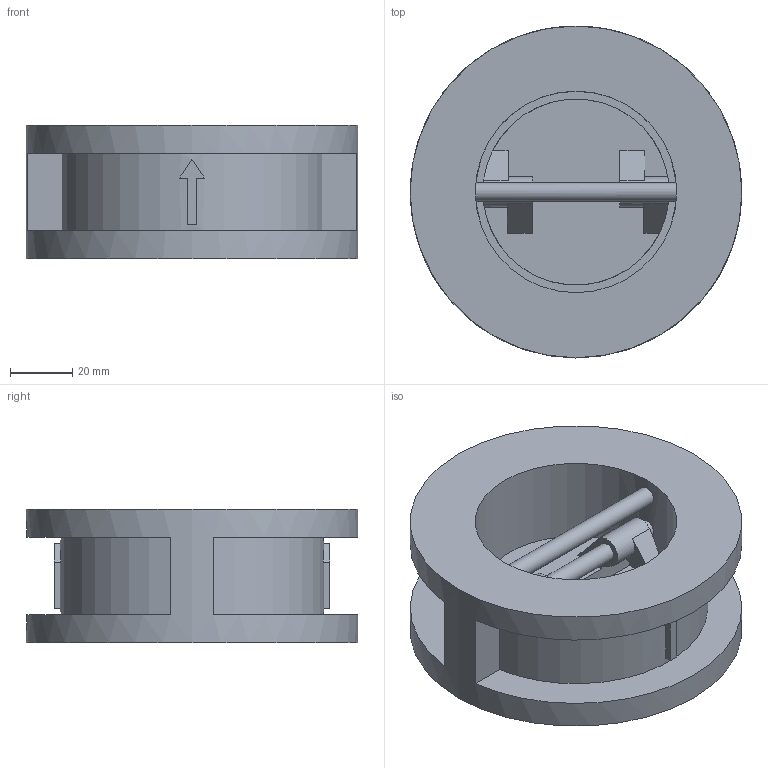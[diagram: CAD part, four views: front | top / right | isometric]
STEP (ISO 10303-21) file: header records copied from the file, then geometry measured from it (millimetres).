
FILE_DESCRIPTION(('STEP AP203'), '1');
FILE_NAME('孰囡囗 钺疣蝽 溻篚耱忸瘅囹 戾骠豚眦邂 010C.Y DN50', '', ('UNSPECIFIED'), ('UNSPECIFIED'), 'ASCON STEP Converter 1.6', 'ASCON Math Kernel', '');
FILE_SCHEMA(('CONFIG_CONTROL_DESIGN'));
Length unit declared in the file: millimetre
Bounding box: 107 x 107 x 43 mm (x, y, z)
Volume: 211309.8 mm3; surface area: 51380.6 mm2
Topology: 1 solids, 1 shells, 73 faces, 201 edges, 132 vertices
Faces by surface type: plane 55, cylinder 16, cone 2
Full cylindrical faces by diameter (mm): 6 x4, 65 x1, 107 x1
Entity records: 3727 total; most frequent: CARTESIAN_POINT 1260, ORIENTED_EDGE 388, DIRECTION 364, EDGE_CURVE 194, VERTEX_POINT 132, LINE 124, VECTOR 124, AXIS2_PLACEMENT_3D 120
